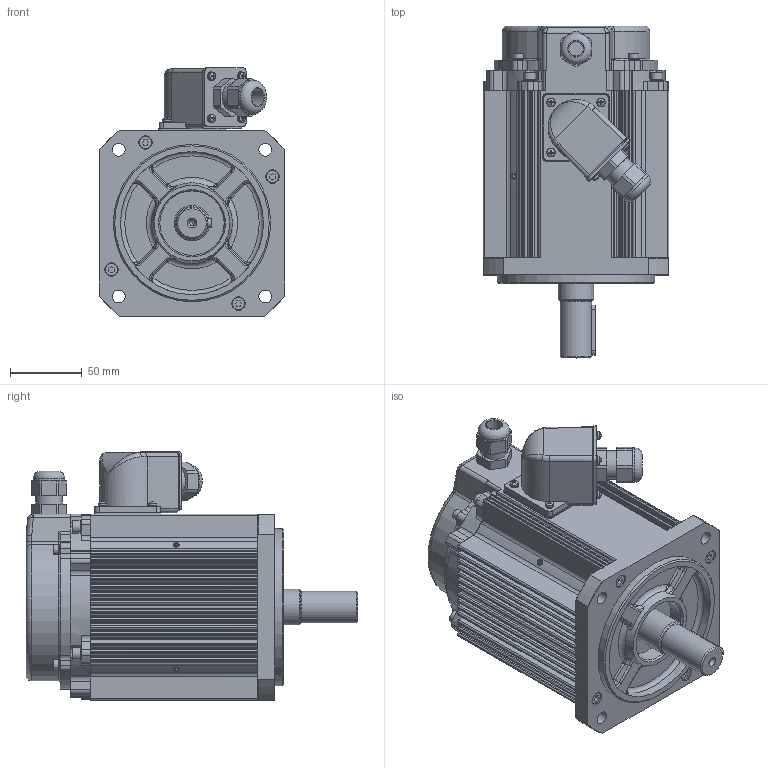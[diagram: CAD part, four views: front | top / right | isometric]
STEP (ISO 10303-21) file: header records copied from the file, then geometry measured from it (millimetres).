
FILE_DESCRIPTION(('STEP AP203'),'1');
FILE_NAME('B751E-D4R.stp','2021-04-21T01:28:10',(' '),(' '),'Spatial InterOp 3D',' ',' ');
FILE_SCHEMA(('CONFIG_CONTROL_DESIGN'));
Length unit declared in the file: millimetre
Products named in the file (1): B751E-D4R
Bounding box: 130 x 232 x 173.5 mm (x, y, z)
Volume: 2353697 mm3; surface area: 206292.1 mm2
Topology: 1 solids, 15 shells, 1489 faces, 3945 edges, 2533 vertices
Faces by surface type: plane 739, cylinder 524, torus 112, cone 62, bspline 45, sphere 7
Full cylindrical faces by diameter (mm): 2.5 x6, 3 x7, 3.15 x1, 3.5 x8, 4 x4, 4.2 x12, 4.5 x4, 5 x8, 5.5 x8, 5.6 x7, 7 x4, 8.5 x8, 9 x4, 9.5 x8, 10 x1, 10.5 x1, 12 x1, 12.5 x1, 18 x1, 18.6 x1, 20.4 x2, 21 x1, 22 x2, 24 x1, 24.8 x1, 28 x1, 30 x1, 36 x1, 45 x1, 100 x1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
Entity records: 54423 total; most frequent: CARTESIAN_POINT 18153, DIRECTION 7811, ORIENTED_EDGE 7344, EDGE_CURVE 3672, AXIS2_PLACEMENT_3D 3036, VERTEX_POINT 2442, EDGE_LOOP 1751, LINE 1739
